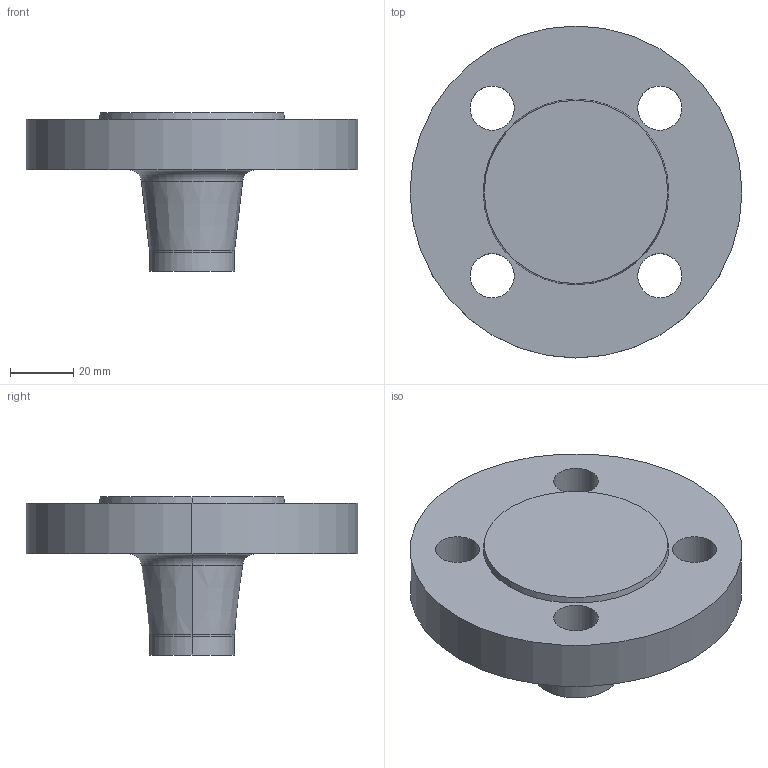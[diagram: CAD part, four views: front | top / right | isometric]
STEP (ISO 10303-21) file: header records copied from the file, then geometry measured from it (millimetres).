
FILE_DESCRIPTION (( 'STEP AP214' ), '1' );
FILE_NAME ('PN40 DN20 Type 21(ii) - Type B Face.STEP', '2018-12-29T16:18:18', ( '' ), ( '' ), 'SwSTEP 2.0', 'SolidWorks 2019', '' );
FILE_SCHEMA (( 'AUTOMOTIVE_DESIGN' ));
Length unit declared in the file: millimetre
Products named in the file (1): PN40 DN20 Type 21(ii) - Type B Face
Bounding box: 105 x 105 x 50 mm (x, y, z)
Volume: 156001.1 mm3; surface area: 27040.1 mm2
Topology: 1 solids, 1 shells, 24 faces, 54 edges, 34 vertices
Faces by surface type: cylinder 12, torus 4, cone 4, plane 4
Entity records: 738 total; most frequent: DIRECTION 142, CARTESIAN_POINT 113, ORIENTED_EDGE 108, AXIS2_PLACEMENT_3D 63, EDGE_CURVE 54, CIRCLE 38, EDGE_LOOP 34, VERTEX_POINT 34
